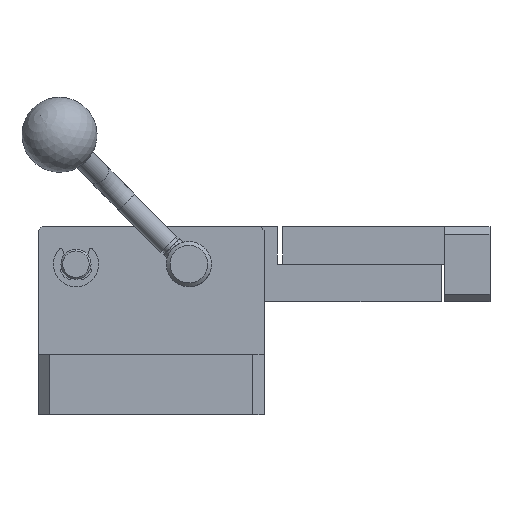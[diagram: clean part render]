
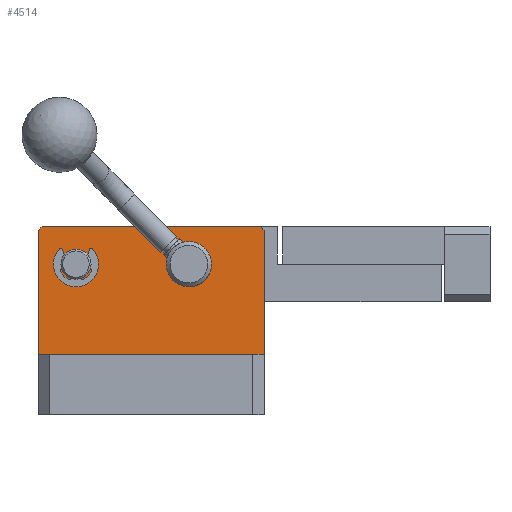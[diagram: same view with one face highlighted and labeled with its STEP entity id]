
A CAD part, front view. The second image highlights one B-rep face of the part: STEP entity #4514.
In plain terms, the highlighted planar face has unit normal (0, -1, 0).
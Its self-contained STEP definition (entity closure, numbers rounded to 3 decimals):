
#3825=FACE_BOUND('',#6099,.T.);
#3826=FACE_BOUND('',#6100,.T.);
#3827=FACE_BOUND('',#6101,.T.);
#4514=ADVANCED_FACE('',(#3825,#3826,#3827),#5022,.F.);
#5022=PLANE('',#14168);
#6099=EDGE_LOOP('',(#8573));
#6100=EDGE_LOOP('',(#8574));
#6101=EDGE_LOOP('',(#8575,#8576,#8577,#8578,#8579,#8580));
#6901=CIRCLE('',#14166,4.);
#6902=CIRCLE('',#14167,6.);
#8573=ORIENTED_EDGE('',*,*,#11645,.F.);
#8574=ORIENTED_EDGE('',*,*,#11646,.F.);
#8575=ORIENTED_EDGE('',*,*,#11612,.T.);
#8576=ORIENTED_EDGE('',*,*,#11647,.F.);
#8577=ORIENTED_EDGE('',*,*,#11605,.T.);
#8578=ORIENTED_EDGE('',*,*,#11642,.T.);
#8579=ORIENTED_EDGE('',*,*,#11648,.F.);
#8580=ORIENTED_EDGE('',*,*,#11649,.F.);
#10413=VERTEX_POINT('',#20314);
#10414=VERTEX_POINT('',#20316);
#10419=VERTEX_POINT('',#20328);
#10421=VERTEX_POINT('',#20331);
#10446=VERTEX_POINT('',#20390);
#10448=VERTEX_POINT('',#20397);
#10449=VERTEX_POINT('',#20399);
#10450=VERTEX_POINT('',#20402);
#11605=EDGE_CURVE('',#10414,#10413,#12604,.T.);
#11612=EDGE_CURVE('',#10421,#10419,#12609,.T.);
#11642=EDGE_CURVE('',#10413,#10446,#12630,.T.);
#11645=EDGE_CURVE('',#10448,#10448,#6901,.T.);
#11646=EDGE_CURVE('',#10449,#10449,#6902,.T.);
#11647=EDGE_CURVE('',#10414,#10419,#12633,.T.);
#11648=EDGE_CURVE('',#10450,#10446,#12634,.T.);
#11649=EDGE_CURVE('',#10421,#10450,#12635,.T.);
#12604=LINE('',#20315,#13232);
#12609=LINE('',#20330,#13237);
#12630=LINE('',#20392,#13258);
#12633=LINE('',#20400,#13261);
#12634=LINE('',#20401,#13262);
#12635=LINE('',#20403,#13263);
#13232=VECTOR('',#16293,1.);
#13237=VECTOR('',#16304,1.);
#13258=VECTOR('',#16353,1.);
#13261=VECTOR('',#16362,1.);
#13262=VECTOR('',#16363,1.);
#13263=VECTOR('',#16364,1.);
#14166=AXIS2_PLACEMENT_3D('',#20396,#16358,#16359);
#14167=AXIS2_PLACEMENT_3D('',#20398,#16360,#16361);
#14168=AXIS2_PLACEMENT_3D('',#20404,#16365,#16366);
#16293=DIRECTION('',(0.,0.,-1.));
#16304=DIRECTION('',(-1.,0.,0.));
#16353=DIRECTION('',(1.,0.,0.));
#16358=DIRECTION('',(0.,-1.,0.));
#16359=DIRECTION('',(0.,0.,1.));
#16360=DIRECTION('',(0.,-1.,0.));
#16361=DIRECTION('',(0.,0.,1.));
#16362=DIRECTION('',(0.707,0.,0.707));
#16363=DIRECTION('',(0.,0.,-1.));
#16364=DIRECTION('',(0.707,0.,-0.707));
#16365=DIRECTION('',(0.,1.,0.));
#16366=DIRECTION('',(0.,0.,-1.));
#20314=CARTESIAN_POINT('',(0.,-144.,16.));
#20315=CARTESIAN_POINT('',(0.,-144.,16.));
#20316=CARTESIAN_POINT('',(0.,-144.,49.));
#20328=CARTESIAN_POINT('',(1.,-144.,50.));
#20330=CARTESIAN_POINT('',(60.,-144.,50.));
#20331=CARTESIAN_POINT('',(59.,-144.,50.));
#20390=CARTESIAN_POINT('',(60.,-144.,16.));
#20392=CARTESIAN_POINT('',(60.,-144.,16.));
#20396=CARTESIAN_POINT('',(10.,-144.,40.));
#20397=CARTESIAN_POINT('',(10.,-144.,44.));
#20398=CARTESIAN_POINT('',(40.,-144.,40.));
#20399=CARTESIAN_POINT('',(40.,-144.,46.));
#20400=CARTESIAN_POINT('',(0.,-144.,49.));
#20401=CARTESIAN_POINT('',(60.,-144.,16.));
#20402=CARTESIAN_POINT('',(60.,-144.,49.));
#20403=CARTESIAN_POINT('',(60.,-144.,49.));
#20404=CARTESIAN_POINT('',(0.,-144.,50.));
